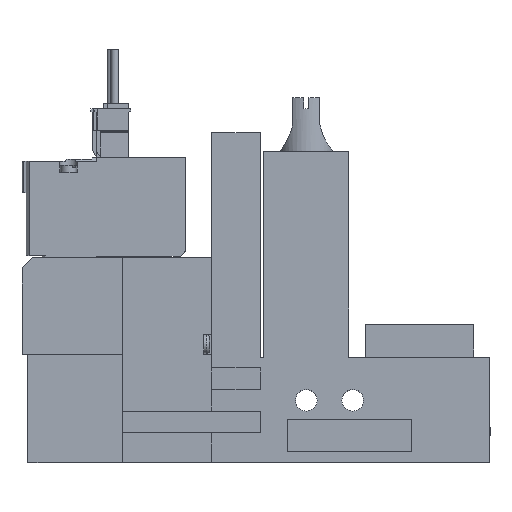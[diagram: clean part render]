
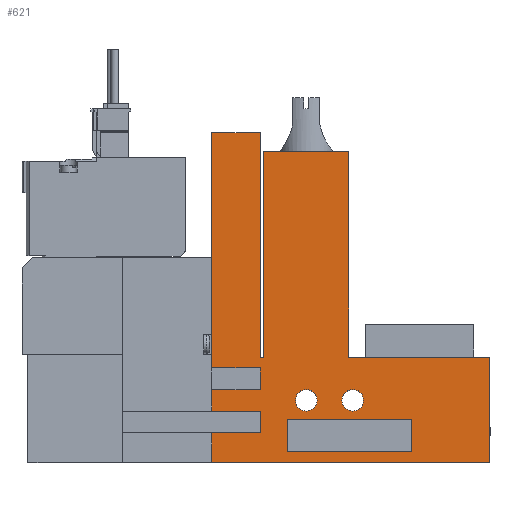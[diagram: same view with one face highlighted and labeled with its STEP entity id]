
A CAD part, top view. The second image highlights one B-rep face of the part: STEP entity #621.
In plain terms, the highlighted planar face has unit normal (0, 0, 1).
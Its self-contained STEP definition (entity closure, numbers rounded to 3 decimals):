
#621=ADVANCED_FACE('',(#1301,#1302,#1303,#1304),#1305,.T.);
#1301=FACE_OUTER_BOUND('',#2053,.T.);
#1302=FACE_BOUND('',#2054,.T.);
#1303=FACE_BOUND('',#2055,.T.);
#1304=FACE_BOUND('',#2056,.T.);
#1305=PLANE('',#2057);
#2053=EDGE_LOOP('',(#4619,#4620,#4621,#4622,#4623,#4624,#4625,#4626,#4627,#4628,#4629,#4630,#4631,#4632,#4633,#4634,#4635,#4636));
#2054=EDGE_LOOP('',(#4637,#4638,#4639,#4640));
#2055=EDGE_LOOP('',(#4641));
#2056=EDGE_LOOP('',(#4642));
#2057=AXIS2_PLACEMENT_3D('',#4643,#4644,#4645);
#4619=ORIENTED_EDGE('',*,*,#5757,.T.);
#4620=ORIENTED_EDGE('',*,*,#5869,.T.);
#4621=ORIENTED_EDGE('',*,*,#5870,.T.);
#4622=ORIENTED_EDGE('',*,*,#5871,.T.);
#4623=ORIENTED_EDGE('',*,*,#5799,.T.);
#4624=ORIENTED_EDGE('',*,*,#5847,.T.);
#4625=ORIENTED_EDGE('',*,*,#5872,.T.);
#4626=ORIENTED_EDGE('',*,*,#5873,.T.);
#4627=ORIENTED_EDGE('',*,*,#5796,.T.);
#4628=ORIENTED_EDGE('',*,*,#5781,.T.);
#4629=ORIENTED_EDGE('',*,*,#5825,.T.);
#4630=ORIENTED_EDGE('',*,*,#5828,.T.);
#4631=ORIENTED_EDGE('',*,*,#5844,.T.);
#4632=ORIENTED_EDGE('',*,*,#5874,.T.);
#4633=ORIENTED_EDGE('',*,*,#5875,.T.);
#4634=ORIENTED_EDGE('',*,*,#5858,.T.);
#4635=ORIENTED_EDGE('',*,*,#5742,.T.);
#4636=ORIENTED_EDGE('',*,*,#5738,.T.);
#4637=ORIENTED_EDGE('',*,*,#5876,.T.);
#4638=ORIENTED_EDGE('',*,*,#5761,.T.);
#4639=ORIENTED_EDGE('',*,*,#5819,.T.);
#4640=ORIENTED_EDGE('',*,*,#5863,.T.);
#4641=ORIENTED_EDGE('',*,*,#5877,.T.);
#4642=ORIENTED_EDGE('',*,*,#5878,.T.);
#4643=CARTESIAN_POINT('',(0.0,0.0,10.0));
#4644=DIRECTION('',(0.0,0.0,1.0));
#4645=DIRECTION('',(1.0,0.0,0.0));
#5738=EDGE_CURVE('',#7125,#7123,#7126,.T.);
#5742=EDGE_CURVE('',#7132,#7125,#7133,.T.);
#5757=EDGE_CURVE('',#7123,#7157,#7159,.T.);
#5761=EDGE_CURVE('',#7160,#7165,#7167,.T.);
#5781=EDGE_CURVE('',#7203,#7201,#7204,.T.);
#5796=EDGE_CURVE('',#7227,#7203,#7230,.T.);
#5799=EDGE_CURVE('',#7235,#7233,#7236,.T.);
#5819=EDGE_CURVE('',#7165,#7268,#7270,.T.);
#5825=EDGE_CURVE('',#7201,#7278,#7280,.T.);
#5828=EDGE_CURVE('',#7278,#7283,#7285,.T.);
#5844=EDGE_CURVE('',#7283,#7308,#7310,.T.);
#5847=EDGE_CURVE('',#7233,#7314,#7315,.T.);
#5858=EDGE_CURVE('',#7329,#7132,#7330,.T.);
#5863=EDGE_CURVE('',#7268,#7335,#7337,.T.);
#5869=EDGE_CURVE('',#7157,#7345,#7346,.T.);
#5870=EDGE_CURVE('',#7345,#7347,#7348,.T.);
#5871=EDGE_CURVE('',#7347,#7235,#7349,.T.);
#5872=EDGE_CURVE('',#7314,#7350,#7351,.T.);
#5873=EDGE_CURVE('',#7350,#7227,#7352,.T.);
#5874=EDGE_CURVE('',#7308,#7353,#7354,.T.);
#5875=EDGE_CURVE('',#7353,#7329,#7355,.T.);
#5876=EDGE_CURVE('',#7335,#7160,#7356,.T.);
#5877=EDGE_CURVE('',#7357,#7357,#7358,.T.);
#5878=EDGE_CURVE('',#7359,#7359,#7360,.T.);
#7123=VERTEX_POINT('',#9345);
#7125=VERTEX_POINT('',#9348);
#7126=LINE('',#9349,#9350);
#7132=VERTEX_POINT('',#9358);
#7133=LINE('',#9359,#9360);
#7157=VERTEX_POINT('',#9397);
#7159=LINE('',#9400,#9401);
#7160=VERTEX_POINT('',#9402);
#7165=VERTEX_POINT('',#9409);
#7167=LINE('',#9412,#9413);
#7201=VERTEX_POINT('',#9462);
#7203=VERTEX_POINT('',#9465);
#7204=LINE('',#9466,#9467);
#7227=VERTEX_POINT('',#9502);
#7230=LINE('',#9507,#9508);
#7233=VERTEX_POINT('',#9512);
#7235=VERTEX_POINT('',#9515);
#7236=LINE('',#9516,#9517);
#7268=VERTEX_POINT('',#9565);
#7270=LINE('',#9568,#9569);
#7278=VERTEX_POINT('',#9581);
#7280=LINE('',#9584,#9585);
#7283=VERTEX_POINT('',#9589);
#7285=LINE('',#9592,#9593);
#7308=VERTEX_POINT('',#9627);
#7310=LINE('',#9630,#9631);
#7314=VERTEX_POINT('',#9637);
#7315=LINE('',#9638,#9639);
#7329=VERTEX_POINT('',#9663);
#7330=LINE('',#9664,#9665);
#7335=VERTEX_POINT('',#9673);
#7337=LINE('',#9676,#9677);
#7345=VERTEX_POINT('',#9690);
#7346=LINE('',#9691,#9692);
#7347=VERTEX_POINT('',#9693);
#7348=LINE('',#9694,#9695);
#7349=LINE('',#9696,#9697);
#7350=VERTEX_POINT('',#9698);
#7351=LINE('',#9699,#9700);
#7352=LINE('',#9701,#9702);
#7353=VERTEX_POINT('',#9703);
#7354=LINE('',#9704,#9705);
#7355=LINE('',#9706,#9707);
#7356=LINE('',#9708,#9709);
#7357=VERTEX_POINT('',#9710);
#7358=CIRCLE('',#9711,2.0);
#7359=VERTEX_POINT('',#9712);
#7360=CIRCLE('',#9713,2.0);
#9345=CARTESIAN_POINT('',(35.1,61.0,10.0));
#9348=CARTESIAN_POINT('',(44.1,61.0,10.0));
#9349=CARTESIAN_POINT('',(44.1,61.0,10.0));
#9350=VECTOR('',#10718,1.0);
#9358=CARTESIAN_POINT('',(44.1,19.5,10.0));
#9359=CARTESIAN_POINT('',(44.1,19.5,10.0));
#9360=VECTOR('',#10724,1.0);
#9397=CARTESIAN_POINT('',(35.1,17.5,10.0));
#9400=CARTESIAN_POINT('',(35.1,61.0,10.0));
#9401=VECTOR('',#10739,1.0);
#9402=CARTESIAN_POINT('',(49.1,8.0,10.0));
#9409=CARTESIAN_POINT('',(72.1,8.0,10.0));
#9412=CARTESIAN_POINT('',(0.0,8.0,10.0));
#9413=VECTOR('',#10743,1.0);
#9462=CARTESIAN_POINT('',(86.6,0.0,10.0));
#9465=CARTESIAN_POINT('',(35.1,0.0,10.0));
#9466=CARTESIAN_POINT('',(18.6,0.0,10.0));
#9467=VECTOR('',#10769,1.0);
#9502=CARTESIAN_POINT('',(35.1,5.5,10.0));
#9507=CARTESIAN_POINT('',(35.1,0.0,10.0));
#9508=VECTOR('',#10784,1.0);
#9512=CARTESIAN_POINT('',(35.1,9.5,10.0));
#9515=CARTESIAN_POINT('',(35.1,13.5,10.0));
#9516=CARTESIAN_POINT('',(35.1,0.0,10.0));
#9517=VECTOR('',#10787,1.0);
#9565=CARTESIAN_POINT('',(72.1,2.0,10.0));
#9568=CARTESIAN_POINT('',(72.1,0.0,10.0));
#9569=VECTOR('',#10811,1.0);
#9581=CARTESIAN_POINT('',(86.6,19.5,10.0));
#9584=CARTESIAN_POINT('',(86.6,0.0,10.0));
#9585=VECTOR('',#10817,1.0);
#9589=CARTESIAN_POINT('',(60.45,19.5,10.0));
#9592=CARTESIAN_POINT('',(86.6,19.5,10.0));
#9593=VECTOR('',#10820,1.0);
#9627=CARTESIAN_POINT('',(60.45,57.5,10.0));
#9630=CARTESIAN_POINT('',(60.45,19.5,10.0));
#9631=VECTOR('',#10842,1.0);
#9637=CARTESIAN_POINT('',(44.1,9.5,10.0));
#9638=CARTESIAN_POINT('',(0.0,9.5,10.0));
#9639=VECTOR('',#10845,1.0);
#9663=CARTESIAN_POINT('',(44.75,19.5,10.0));
#9664=CARTESIAN_POINT('',(44.75,19.5,10.0));
#9665=VECTOR('',#10856,1.0);
#9673=CARTESIAN_POINT('',(49.1,2.0,10.0));
#9676=CARTESIAN_POINT('',(0.0,2.0,10.0));
#9677=VECTOR('',#10861,1.0);
#9690=CARTESIAN_POINT('',(44.1,17.5,10.0));
#9691=CARTESIAN_POINT('',(0.0,17.5,10.0));
#9692=VECTOR('',#10867,1.0);
#9693=CARTESIAN_POINT('',(44.1,13.5,10.0));
#9694=CARTESIAN_POINT('',(44.1,0.0,10.0));
#9695=VECTOR('',#10868,1.0);
#9696=CARTESIAN_POINT('',(0.0,13.5,10.0));
#9697=VECTOR('',#10869,1.0);
#9698=CARTESIAN_POINT('',(44.1,5.5,10.0));
#9699=CARTESIAN_POINT('',(44.1,0.0,10.0));
#9700=VECTOR('',#10870,1.0);
#9701=CARTESIAN_POINT('',(0.0,5.5,10.0));
#9702=VECTOR('',#10871,1.0);
#9703=CARTESIAN_POINT('',(44.75,57.5,10.0));
#9704=CARTESIAN_POINT('',(60.45,57.5,10.0));
#9705=VECTOR('',#10872,1.0);
#9706=CARTESIAN_POINT('',(44.75,57.5,10.0));
#9707=VECTOR('',#10873,1.0);
#9708=CARTESIAN_POINT('',(49.1,0.0,10.0));
#9709=VECTOR('',#10874,1.0);
#9710=CARTESIAN_POINT('',(54.6,11.5,10.0));
#9711=AXIS2_PLACEMENT_3D('',#10875,#10876,#10877);
#9712=CARTESIAN_POINT('',(63.2,11.5,10.0));
#9713=AXIS2_PLACEMENT_3D('',#10878,#10879,#10880);
#10718=DIRECTION('',(-1.0,0.0,0.0));
#10724=DIRECTION('',(0.0,1.0,0.0));
#10739=DIRECTION('',(0.0,-1.0,0.0));
#10743=DIRECTION('',(1.0,0.0,0.0));
#10769=DIRECTION('',(1.0,0.0,0.0));
#10784=DIRECTION('',(0.0,-1.0,0.0));
#10787=DIRECTION('',(0.0,-1.0,0.0));
#10811=DIRECTION('',(0.0,-1.0,0.0));
#10817=DIRECTION('',(0.0,1.0,0.0));
#10820=DIRECTION('',(-1.0,0.0,0.0));
#10842=DIRECTION('',(0.0,1.0,0.0));
#10845=DIRECTION('',(1.0,0.0,0.0));
#10856=DIRECTION('',(-1.0,0.0,0.0));
#10861=DIRECTION('',(-1.0,0.0,0.0));
#10867=DIRECTION('',(1.0,0.0,0.0));
#10868=DIRECTION('',(0.0,-1.0,0.0));
#10869=DIRECTION('',(-1.0,0.0,0.0));
#10870=DIRECTION('',(0.0,-1.0,0.0));
#10871=DIRECTION('',(-1.0,0.0,0.0));
#10872=DIRECTION('',(-1.0,0.0,0.0));
#10873=DIRECTION('',(0.0,-1.0,0.0));
#10874=DIRECTION('',(0.0,1.0,0.0));
#10875=CARTESIAN_POINT('',(52.6,11.5,10.0));
#10876=DIRECTION('',(0.0,0.0,-1.0));
#10877=DIRECTION('',(1.0,0.0,0.0));
#10878=CARTESIAN_POINT('',(61.2,11.5,10.0));
#10879=DIRECTION('',(0.0,0.0,-1.0));
#10880=DIRECTION('',(1.0,0.0,0.0));
